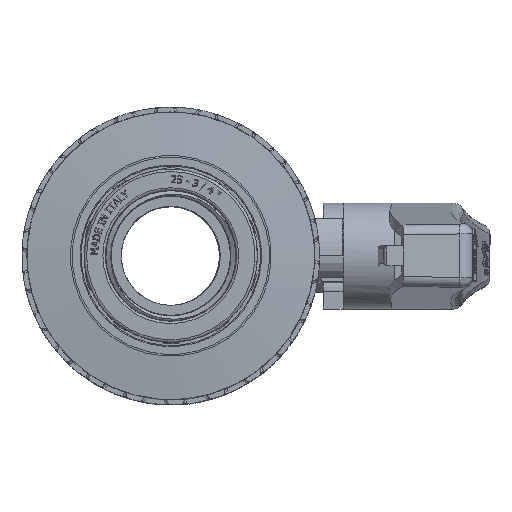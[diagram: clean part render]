
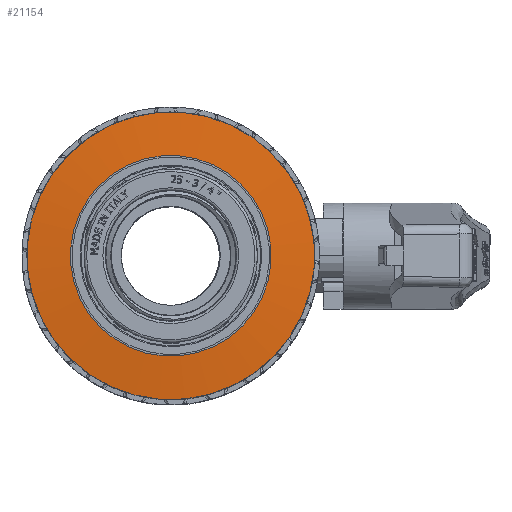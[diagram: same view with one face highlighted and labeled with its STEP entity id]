
A CAD part, top view. The second image highlights one B-rep face of the part: STEP entity #21154.
In plain terms, the highlighted conical face has half-angle 85 degrees and reference radius 24.575 mm.
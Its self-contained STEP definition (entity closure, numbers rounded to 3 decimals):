
#149=CONICAL_SURFACE('',#22724,24.575,1.484);
#1343=FACE_BOUND('',#4209,.T.);
#1894=CIRCLE('',#22723,20.274);
#1895=CIRCLE('',#22725,29.05);
#2890=FACE_OUTER_BOUND('',#4208,.T.);
#4208=EDGE_LOOP('',(#15977));
#4209=EDGE_LOOP('',(#15978));
#9165=VERTEX_POINT('',#41721);
#9166=VERTEX_POINT('',#41724);
#11657=EDGE_CURVE('',#9165,#9165,#1894,.T.);
#11658=EDGE_CURVE('',#9166,#9166,#1895,.T.);
#15977=ORIENTED_EDGE('',*,*,#11658,.F.);
#15978=ORIENTED_EDGE('',*,*,#11657,.F.);
#21154=ADVANCED_FACE('',(#2890,#1343),#149,.T.);
#22723=AXIS2_PLACEMENT_3D('',#41722,#26022,#26023);
#22724=AXIS2_PLACEMENT_3D('',#41723,#26024,#26025);
#22725=AXIS2_PLACEMENT_3D('',#41725,#26026,#26027);
#26022=DIRECTION('center_axis',(-1.,0.,0.));
#26023=DIRECTION('ref_axis',(0.,-1.,0.));
#26024=DIRECTION('center_axis',(1.,0.,0.));
#26025=DIRECTION('ref_axis',(0.,1.,0.));
#26026=DIRECTION('center_axis',(1.,0.,0.));
#26027=DIRECTION('ref_axis',(0.,0.,-1.));
#41721=CARTESIAN_POINT('',(0.015,20.274,0.));
#41722=CARTESIAN_POINT('Origin',(0.015,0.,0.));
#41723=CARTESIAN_POINT('Origin',(0.392,0.,0.));
#41724=CARTESIAN_POINT('',(0.783,29.05,0.));
#41725=CARTESIAN_POINT('Origin',(0.783,0.,0.));
